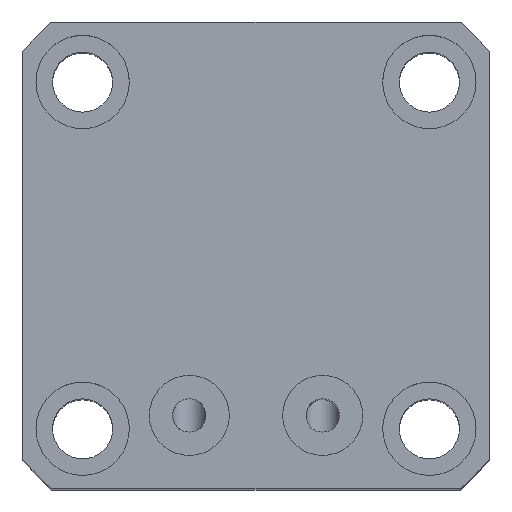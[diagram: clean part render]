
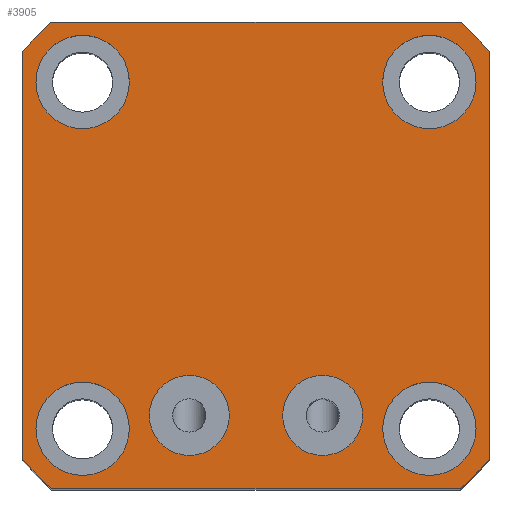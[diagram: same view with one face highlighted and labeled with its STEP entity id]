
A CAD part, top view. The second image highlights one B-rep face of the part: STEP entity #3905.
In plain terms, the highlighted planar face has unit normal (0, 0, 1).
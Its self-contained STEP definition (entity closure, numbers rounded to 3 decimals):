
#3905=ADVANCED_FACE('',(#4753,#4754,#4755,#4756,#4757,#4758,#4759),#4382,
 .T.);
#4382=PLANE('',#12597);
#4753=FACE_BOUND('',#4955,.T.);
#4754=FACE_BOUND('',#4956,.T.);
#4755=FACE_BOUND('',#4957,.T.);
#4756=FACE_BOUND('',#4958,.T.);
#4757=FACE_BOUND('',#4959,.T.);
#4758=FACE_BOUND('',#4960,.T.);
#4759=FACE_BOUND('',#4961,.T.);
#4955=EDGE_LOOP('',(#7530));
#4956=EDGE_LOOP('',(#7531));
#4957=EDGE_LOOP('',(#7532));
#4958=EDGE_LOOP('',(#7533));
#4959=EDGE_LOOP('',(#7534));
#4960=EDGE_LOOP('',(#7535));
#4961=EDGE_LOOP('',(#7536,#7537,#7538,#7539,#7540,#7541,#7542,#7543));
#5521=LINE('',#14993,#6431);
#5527=LINE('',#15257,#6437);
#5531=LINE('',#15266,#6441);
#5535=LINE('',#15275,#6445);
#6431=VECTOR('',#13017,1.);
#6437=VECTOR('',#13143,1.);
#6441=VECTOR('',#13149,1.);
#6445=VECTOR('',#13155,1.);
#7530=ORIENTED_EDGE('',*,*,#11116,.F.);
#7531=ORIENTED_EDGE('',*,*,#11118,.F.);
#7532=ORIENTED_EDGE('',*,*,#11141,.F.);
#7533=ORIENTED_EDGE('',*,*,#11143,.F.);
#7534=ORIENTED_EDGE('',*,*,#11145,.F.);
#7535=ORIENTED_EDGE('',*,*,#11147,.F.);
#7536=ORIENTED_EDGE('',*,*,#11096,.T.);
#7537=ORIENTED_EDGE('',*,*,#11161,.T.);
#7538=ORIENTED_EDGE('',*,*,#11150,.T.);
#7539=ORIENTED_EDGE('',*,*,#11162,.T.);
#7540=ORIENTED_EDGE('',*,*,#11154,.T.);
#7541=ORIENTED_EDGE('',*,*,#11163,.T.);
#7542=ORIENTED_EDGE('',*,*,#11158,.T.);
#7543=ORIENTED_EDGE('',*,*,#11164,.T.);
#10141=VERTEX_POINT('',#14991);
#10143=VERTEX_POINT('',#14994);
#10162=VERTEX_POINT('',#15173);
#10164=VERTEX_POINT('',#15178);
#10186=VERTEX_POINT('',#15235);
#10188=VERTEX_POINT('',#15240);
#10190=VERTEX_POINT('',#15245);
#10192=VERTEX_POINT('',#15250);
#10194=VERTEX_POINT('',#15255);
#10196=VERTEX_POINT('',#15258);
#10198=VERTEX_POINT('',#15264);
#10200=VERTEX_POINT('',#15267);
#10202=VERTEX_POINT('',#15273);
#10204=VERTEX_POINT('',#15276);
#11096=EDGE_CURVE('',#10143,#10141,#5521,.T.);
#11116=EDGE_CURVE('',#10162,#10162,#12441,.T.);
#11118=EDGE_CURVE('',#10164,#10164,#12443,.T.);
#11141=EDGE_CURVE('',#10186,#10186,#12466,.T.);
#11143=EDGE_CURVE('',#10188,#10188,#12468,.T.);
#11145=EDGE_CURVE('',#10190,#10190,#12470,.T.);
#11147=EDGE_CURVE('',#10192,#10192,#12472,.T.);
#11150=EDGE_CURVE('',#10196,#10194,#5527,.T.);
#11154=EDGE_CURVE('',#10200,#10198,#5531,.T.);
#11158=EDGE_CURVE('',#10204,#10202,#5535,.T.);
#11161=EDGE_CURVE('',#10141,#10196,#12474,.T.);
#11162=EDGE_CURVE('',#10194,#10200,#12475,.T.);
#11163=EDGE_CURVE('',#10198,#10204,#12476,.T.);
#11164=EDGE_CURVE('',#10202,#10143,#12477,.T.);
#12441=CIRCLE('',#12540,6.);
#12443=CIRCLE('',#12543,6.);
#12466=CIRCLE('',#12578,7.);
#12468=CIRCLE('',#12581,7.);
#12470=CIRCLE('',#12584,7.);
#12472=CIRCLE('',#12587,7.);
#12474=CIRCLE('',#12593,46.5);
#12475=CIRCLE('',#12594,46.5);
#12476=CIRCLE('',#12595,46.5);
#12477=CIRCLE('',#12596,46.5);
#12540=AXIS2_PLACEMENT_3D('',#15172,#13042,#13043);
#12543=AXIS2_PLACEMENT_3D('',#15177,#13048,#13049);
#12578=AXIS2_PLACEMENT_3D('',#15234,#13118,#13119);
#12581=AXIS2_PLACEMENT_3D('',#15239,#13124,#13125);
#12584=AXIS2_PLACEMENT_3D('',#15244,#13130,#13131);
#12587=AXIS2_PLACEMENT_3D('',#15249,#13136,#13137);
#12593=AXIS2_PLACEMENT_3D('',#15281,#13160,#13161);
#12594=AXIS2_PLACEMENT_3D('',#15282,#13162,#13163);
#12595=AXIS2_PLACEMENT_3D('',#15283,#13164,#13165);
#12596=AXIS2_PLACEMENT_3D('',#15284,#13166,#13167);
#12597=AXIS2_PLACEMENT_3D('',#15285,#13168,#13169);
#13017=DIRECTION('',(-1.,0.,0.));
#13042=DIRECTION('',(0.,0.,1.));
#13043=DIRECTION('',(0.,1.,0.));
#13048=DIRECTION('',(0.,0.,1.));
#13049=DIRECTION('',(0.,1.,0.));
#13118=DIRECTION('',(0.,0.,1.));
#13119=DIRECTION('',(0.,1.,0.));
#13124=DIRECTION('',(0.,0.,1.));
#13125=DIRECTION('',(0.,1.,0.));
#13130=DIRECTION('',(0.,0.,1.));
#13131=DIRECTION('',(0.,1.,0.));
#13136=DIRECTION('',(0.,0.,1.));
#13137=DIRECTION('',(0.,1.,0.));
#13143=DIRECTION('',(0.,-1.,0.));
#13149=DIRECTION('',(1.,0.,0.));
#13155=DIRECTION('',(0.,1.,0.));
#13160=DIRECTION('',(0.,0.,1.));
#13161=DIRECTION('',(0.,1.,0.));
#13162=DIRECTION('',(0.,0.,1.));
#13163=DIRECTION('',(0.,1.,0.));
#13164=DIRECTION('',(0.,0.,1.));
#13165=DIRECTION('',(0.,1.,0.));
#13166=DIRECTION('',(0.,0.,1.));
#13167=DIRECTION('',(0.,1.,0.));
#13168=DIRECTION('',(0.,0.,1.));
#13169=DIRECTION('',(0.,-1.,0.));
#14991=CARTESIAN_POINT('',(-45.172,48.957,90.434));
#14993=CARTESIAN_POINT('',(-49.558,48.957,90.434));
#14994=CARTESIAN_POINT('',(16.057,48.957,90.434));
#15172=CARTESIAN_POINT('',(-4.558,-10.043,90.434));
#15173=CARTESIAN_POINT('',(-4.558,-4.043,90.434));
#15177=CARTESIAN_POINT('',(-24.558,-10.043,90.434));
#15178=CARTESIAN_POINT('',(-24.558,-4.043,90.434));
#15234=CARTESIAN_POINT('',(11.442,-12.043,90.434));
#15235=CARTESIAN_POINT('',(11.442,-5.043,90.434));
#15239=CARTESIAN_POINT('',(11.442,39.957,90.434));
#15240=CARTESIAN_POINT('',(11.442,46.957,90.434));
#15244=CARTESIAN_POINT('',(-40.558,39.957,90.434));
#15245=CARTESIAN_POINT('',(-40.558,46.957,90.434));
#15249=CARTESIAN_POINT('',(-40.558,-12.043,90.434));
#15250=CARTESIAN_POINT('',(-40.558,-5.043,90.434));
#15255=CARTESIAN_POINT('',(-49.558,-16.658,90.434));
#15257=CARTESIAN_POINT('',(-49.558,-21.043,90.434));
#15258=CARTESIAN_POINT('',(-49.558,44.571,90.434));
#15264=CARTESIAN_POINT('',(16.057,-21.043,90.434));
#15266=CARTESIAN_POINT('',(-49.558,-21.043,90.434));
#15267=CARTESIAN_POINT('',(-45.172,-21.043,90.434));
#15273=CARTESIAN_POINT('',(20.442,44.571,90.434));
#15275=CARTESIAN_POINT('',(20.442,-21.043,90.434));
#15276=CARTESIAN_POINT('',(20.442,-16.658,90.434));
#15281=CARTESIAN_POINT('',(-14.558,13.957,90.434));
#15282=CARTESIAN_POINT('',(-14.558,13.957,90.434));
#15283=CARTESIAN_POINT('',(-14.558,13.957,90.434));
#15284=CARTESIAN_POINT('',(-14.558,13.957,90.434));
#15285=CARTESIAN_POINT('',(-14.558,13.957,90.434));
